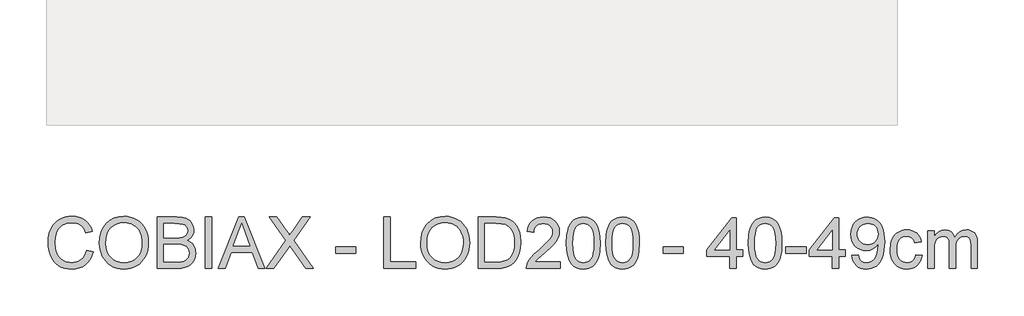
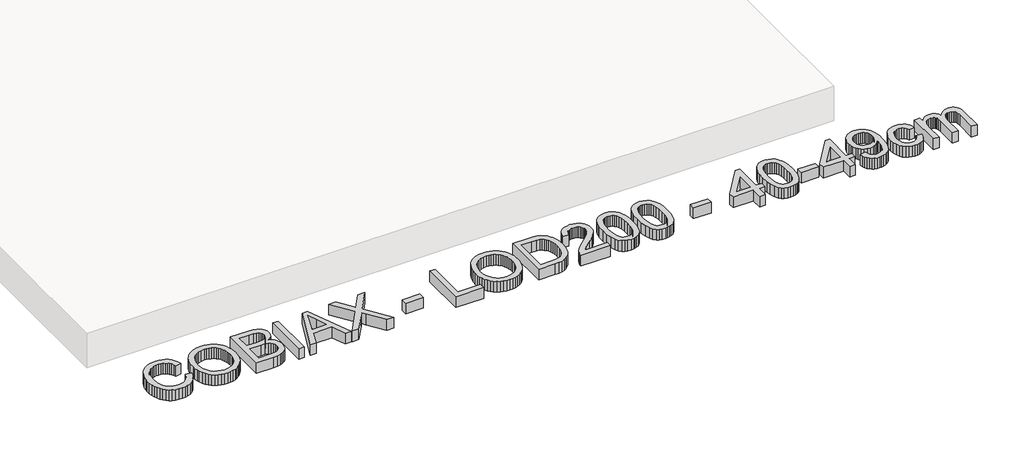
# One storey, part 4 of 6: 1 proxy.
"""IFC4 building model written with IfcOpenShell, lengths in millimetres."""

from ifc_helpers import new_model, si_unit, origin, origin_with_axes, place, context, project, spatial, polyline, outline, extrude, element, save

model = new_model("IFC4")

# Units and contexts
model_context = context("Model", 3, world=origin())
ifc_project = project(units=[si_unit("LENGTHUNIT", "METRE", prefix="MILLI")], contexts=[model_context])

# Site, building, storey
site = spatial("IfcSite", under=ifc_project)
building = spatial("IfcBuilding", under=site)
storey = spatial("IfcBuildingStorey", under=building, Name="COBIAX Slabs", Elevation=0.0)

# Proxy
placement = place(None, origin())
element("IfcBuildingElementProxy", 1, Name="600mm Arial", ObjectType="600mm Arial", at=placement, inside=storey, context=model_context, shape_type="SweptSolid", body=[
    extrude(outline(polyline([(24798.2153953, -6620.9127725), (24873.5576279, -6640.3369419), (24858.64921, -6687.1913125), (24838.7927794, -6728.13198), (24813.9883358, -6763.1589445), (24784.2358795, -6792.2722059), (24750.2067949, -6815.1590645), (24712.5724668, -6831.5068207), (24671.3328952, -6841.3154744), (24626.4880799, -6844.5850256), (24580.5442173, -6842.1110192), (24539.097712, -6834.6889999), (24502.1485641, -6822.3189678), (24469.6967736, -6805.0009229), (24441.2962836, -6782.9923826), (24416.5010371, -6756.5508642), (24395.3110342, -6725.6763677), (24377.7262748, -6690.3688932), (24363.9169044, -6652.155151), (24354.0530684, -6612.5618512), (24348.1347668, -6571.588994), (24346.1619996, -6529.2365793), (24348.3922842, -6483.7939559), (24355.083138, -6441.3495707), (24366.234561, -6401.9034238), (24381.8465531, -6365.4555151), (24401.5696266, -6332.6082514), (24425.0542935, -6303.9640396), (24452.3005538, -6279.5228795), (24483.3084074, -6259.2847713), (24517.0247923, -6243.4152617), (24552.3966461, -6232.0798977), (24589.4239689, -6225.2786793), (24628.1067607, -6223.0116065), (24671.1995379, -6225.9454655), (24710.7146627, -6234.7470422), (24746.6521351, -6249.4163368), (24779.0119551, -6269.9533491), (24807.2606938, -6295.8154534), (24830.8649224, -6326.4600236), (24849.8246407, -6361.8870597), (24864.1398488, -6402.0965618), (24788.7976162, -6420.0492032), (24776.9334219, -6390.420907), (24762.6779946, -6365.1060272), (24746.0313343, -6344.1045638), (24726.993441, -6327.4165168), (24705.4539502, -6314.7015953), (24681.3024972, -6305.6195086), (24654.5390821, -6300.1702565), (24625.1637048, -6298.3538392), (24591.3645465, -6300.3679931), (24560.4532618, -6306.4104549), (24532.4298508, -6316.4812245), (24507.2943135, -6330.5803019), (24485.3639481, -6348.0730908), (24466.9560527, -6368.3249946), (24452.0706275, -6391.3360134), (24440.7076724, -6417.1061472), (24426.3050923, -6472.2516583), (24421.5042322, -6529.0894265), (24427.1880091, -6598.6927), (24434.2927301, -6629.9626696), (24444.2393395, -6658.8781944), (24457.1887858, -6684.8644589), (24473.3020171, -6707.3466473), (24492.5790337, -6726.3247597), (24515.0198354, -6741.7987961), (24539.5345719, -6753.8055448), (24565.0333926, -6762.3817938), (24591.5162978, -6767.5275432), (24618.9832872, -6769.242793), (24651.7385804, -6766.9067423), (24681.8727143, -6759.8985903), (24709.385689, -6748.218337), (24734.2775045, -6731.8659823), (24755.9595496, -6710.9151027), (24773.8432131, -6685.4392745), (24787.928495, -6655.4384978), (24798.2153953, -6620.9127725)])), origin_with_axes(), (0.0, 0.0, 1.0), 150.0),
    extrude(outline(polyline([(24948.8998605, -6541.7445672), (24953.9214497, -6471.0468447), (24968.9862175, -6408.4609203), (24994.0941636, -6353.9867939), (25010.4143286, -6329.7916549), (25029.2452883, -6307.6244654), (25072.3334669, -6270.6063397), (25121.2525753, -6244.1648213), (25176.0026132, -6228.2999102), (25236.5835807, -6223.0116065), (25277.1333737, -6225.49481), (25315.6414215, -6232.9444204), (25352.1077243, -6245.3604378), (25386.532282, -6262.742862), (25417.9494044, -6284.5674614), (25445.3934012, -6310.310004), (25468.8642725, -6339.9704899), (25488.3620182, -6373.548919), (25503.6843033, -6410.2819362), (25514.6287927, -6449.4061864), (25521.1954863, -6490.9216695), (25523.3843842, -6534.8283857), (25521.0805232, -6579.3145159), (25514.1689402, -6621.3910191), (25502.6496352, -6661.0578953), (25486.5226083, -6698.3151443), (25466.1695369, -6732.178682), (25441.9720986, -6761.6644239), (25413.9302936, -6786.7723701), (25382.0441216, -6807.5025205), (25347.5689802, -6823.7261165), (25311.7602665, -6835.3143993), (25274.6179805, -6842.267369), (25236.1421223, -6844.5850256), (25194.8841566, -6842.0236472), (25155.870271, -6834.339512), (25119.1004656, -6821.5326201), (25084.5747403, -6803.6029713), (25053.1944061, -6781.2449431), (25025.8607739, -6755.1529126), (25002.5738436, -6725.3268798), (24983.3336153, -6691.7668448), (24968.2688476, -6655.8201753), (24957.5082992, -6618.8342393), (24951.0519702, -6580.8090365), (24948.8998605, -6541.7445672)]), holes=[polyline([(25024.2420931, -6542.4803312), (25028.0082851, -6592.4295091), (25039.3068608, -6636.7684865), (25058.1378205, -6675.4972636), (25084.5011639, -6708.6158402), (25116.5482842, -6735.140132), (25152.4305743, -6754.0860548), (25192.1480343, -6765.4536084), (25235.700664, -6769.242793), (25279.9982547, -6765.4168202), (25320.1847641, -6753.938902), (25356.2601923, -6734.8090382), (25388.2245392, -6708.027229), (25414.3947446, -6674.2096766), (25433.0877485, -6633.9725834), (25444.3035508, -6587.3159493), (25448.0421516, -6534.2397745), (25446.4418649, -6499.7600345), (25441.6410049, -6467.5427687), (25433.6395715, -6437.5879773), (25422.4375647, -6409.8956601), (25408.1591448, -6384.8291007), (25390.9284718, -6362.7515824), (25370.7455459, -6343.6631054), (25347.6103669, -6327.5636696), (25322.2403048, -6314.7843688), (25295.3527295, -6305.6562968), (25266.9476409, -6300.1794536), (25237.0250391, -6298.3538392), (25194.9853241, -6301.8717107), (25155.9806356, -6312.4253255), (25120.0109735, -6330.0146834), (25087.0763379, -6354.6397844), (25059.5863558, -6387.4870481), (25039.9506543, -6429.7428937), (25028.1692334, -6481.4073214), (25024.2420931, -6542.4803312)])]), origin_with_axes(), (0.0, 0.0, 1.0), 150.0),
    extrude(outline(polyline([(25626.979954, -6835.1672465), (25626.979954, -6232.4293856), (25856.9797774, -6232.4293856), (25920.2370865, -6236.8623637), (25969.6252443, -6250.1612978), (25989.7024042, -6260.2182718), (26007.4803016, -6272.6572818), (26022.9589366, -6287.4783277), (26036.1383091, -6304.6814095), (26054.1829209, -6342.3525258), (26060.1977915, -6381.7894757), (26055.1394141, -6418.0810345), (26039.9642818, -6452.2020895), (26014.56203, -6482.0557135), (25978.8222942, -6505.5449788), (26001.562, -6515.2386694), (26021.5149998, -6527.8386278), (26038.6812934, -6543.3448538), (26053.0608808, -6561.7573477), (26064.423836, -6582.5150893), (26072.5402325, -6605.0570585), (26077.4100704, -6629.3832555), (26079.0333497, -6655.4936801), (26074.6003717, -6697.524198), (26061.3014375, -6736.5012954), (26041.4542039, -6769.6474632), (26017.3763273, -6794.1851923), (25987.8905854, -6811.9538926), (25951.8197558, -6824.7929743), (25907.986616, -6832.5736785), (25855.2139438, -6835.1672465), (25626.979954, -6835.1672465)]), holes=[polyline([(25702.3221866, -6477.2916416), (25839.9100528, -6477.2916416), (25888.0290178, -6475.6729608), (25920.2554806, -6470.8169185), (25948.3800591, -6459.6516999), (25968.5951747, -6442.9314633), (25980.7904629, -6420.9137259), (25984.8555589, -6393.8560051), (25981.0663744, -6367.5892307), (25969.6988207, -6344.7069706), (25951.2679328, -6326.8462997), (25926.2887453, -6315.6442929), (25887.9554414, -6309.7397869), (25829.4622042, -6307.7716182), (25702.3221866, -6307.7716182), (25702.3221866, -6477.2916416)]), polyline([(25702.3221866, -6759.8250139), (25856.8326246, -6759.8250139), (25912.7506879, -6756.8819579), (25938.7047626, -6750.3520525), (25960.0603125, -6740.474421), (25977.4243426, -6726.3293582), (25991.4038584, -6706.9971594), (26000.6193024, -6683.3423471), (26003.6911171, -6656.2294441), (26000.0858735, -6624.7387453), (25989.2701429, -6597.6626304), (25970.3794024, -6576.4910216), (25942.5491295, -6562.7138409), (25903.1305737, -6555.1538659), (25849.4749847, -6552.6338742), (25702.3221866, -6552.6338742), (25702.3221866, -6759.8250139)])]), origin_with_axes(), (0.0, 0.0, 1.0), 150.0),
    extrude(outline(polyline([(26192.0466986, -6835.1672465), (26192.0466986, -6232.4293856), (26267.3889312, -6232.4293856), (26267.3889312, -6835.1672465), (26192.0466986, -6835.1672465)])), origin_with_axes(), (0.0, 0.0, 1.0), 150.0),
    extrude(outline(polyline([(26347.8815118, -6835.1672465), (26588.4763366, -6232.4293856), (26652.6349566, -6232.4293856), (26893.2297814, -6835.1672465), (26813.6201177, -6835.1672465), (26744.6054554, -6646.811665), (26496.358685, -6646.811665), (26427.4911755, -6835.1672465), (26347.8815118, -6835.1672465)]), holes=[polyline([(26524.0234111, -6571.4694324), (26717.0878821, -6571.4694324), (26662.7884996, -6423.2865647), (26620.5556466, -6307.7716182), (26583.0316831, -6410.3371185), (26524.0234111, -6571.4694324)])]), origin_with_axes(), (0.0, 0.0, 1.0), 150.0),
    extrude(outline(polyline([(26907.7979084, -6835.1672465), (27140.1521766, -6506.7222012), (26945.4690247, -6232.4293856), (27035.8208428, -6232.4293856), (27145.4496773, -6386.7926708), (27171.6060872, -6425.8985269), (27182.3850296, -6446.9781652), (27225.6479523, -6385.7626012), (27334.0995644, -6232.4293856), (27425.7757576, -6232.4293856), (27231.0926058, -6507.605118), (27463.4468739, -6835.1672465), (27373.0950559, -6835.1672465), (27218.2903124, -6616.7924942), (27186.0638496, -6571.4694324), (27150.6000252, -6621.2070781), (26999.4741016, -6835.1672465), (26907.7979084, -6835.1672465)])), origin_with_axes(), (0.0, 0.0, 1.0), 150.0),
    extrude(outline(polyline([(27727.1446881, -6656.2294441), (27727.1446881, -6580.8872115), (27962.589165, -6580.8872115), (27962.589165, -6656.2294441), (27727.1446881, -6656.2294441)])), origin_with_axes(), (0.0, 0.0, 1.0), 150.0),
    extrude(outline(polyline([(28292.2114327, -6835.1672465), (28292.2114327, -6232.4293856), (28367.5536653, -6232.4293856), (28367.5536653, -6759.8250139), (28668.9225957, -6759.8250139), (28668.9225957, -6835.1672465), (28292.2114327, -6835.1672465)])), origin_with_axes(), (0.0, 0.0, 1.0), 150.0),
    extrude(outline(polyline([(28725.4292702, -6541.7445672), (28730.4508594, -6471.0468447), (28745.5156271, -6408.4609203), (28770.6235733, -6353.9867939), (28786.9437383, -6329.7916549), (28805.7746979, -6307.6244654), (28848.8628766, -6270.6063397), (28897.7819849, -6244.1648213), (28952.5320229, -6228.2999102), (29013.1129904, -6223.0116065), (29053.6627833, -6225.49481), (29092.1708312, -6232.9444204), (29128.637134, -6245.3604378), (29163.0616917, -6262.742862), (29194.4788141, -6284.5674614), (29221.9228109, -6310.310004), (29245.3936822, -6339.9704899), (29264.8914279, -6373.548919), (29280.213713, -6410.2819362), (29291.1582024, -6449.4061864), (29297.724896, -6490.9216695), (29299.9137939, -6534.8283857), (29297.6099329, -6579.3145159), (29290.6983499, -6621.3910191), (29279.1790449, -6661.0578953), (29263.052018, -6698.3151443), (29242.6989466, -6732.178682), (29218.5015083, -6761.6644239), (29190.4597033, -6786.7723701), (29158.5735313, -6807.5025205), (29124.0983898, -6823.7261165), (29088.2896761, -6835.3143993), (29051.1473902, -6842.267369), (29012.671532, -6844.5850256), (28971.4135663, -6842.0236472), (28932.3996807, -6834.339512), (28895.6298753, -6821.5326201), (28861.10415, -6803.6029713), (28829.7238158, -6781.2449431), (28802.3901836, -6755.1529126), (28779.1032533, -6725.3268798), (28759.8630249, -6691.7668448), (28744.7982572, -6655.8201753), (28734.0377089, -6618.8342393), (28727.5813799, -6580.8090365), (28725.4292702, -6541.7445672)]), holes=[polyline([(28800.7715028, -6542.4803312), (28804.5376947, -6592.4295091), (28815.8362705, -6636.7684865), (28834.6672301, -6675.4972636), (28861.0305736, -6708.6158402), (28893.0776939, -6735.140132), (28928.959984, -6754.0860548), (28968.6774439, -6765.4536084), (29012.2300736, -6769.242793), (29056.5276644, -6765.4168202), (29096.7141738, -6753.938902), (29132.789602, -6734.8090382), (29164.7539488, -6708.027229), (29190.9241543, -6674.2096766), (29209.6171582, -6633.9725834), (29220.8329605, -6587.3159493), (29224.5715613, -6534.2397745), (29222.9712746, -6499.7600345), (29218.1704145, -6467.5427687), (29210.1689811, -6437.5879773), (29198.9669744, -6409.8956601), (29184.6885545, -6384.8291007), (29167.4578815, -6362.7515824), (29147.2749555, -6343.6631054), (29124.1397766, -6327.5636696), (29098.7697145, -6314.7843688), (29071.8821392, -6305.6562968), (29043.4770506, -6300.1794536), (29013.5544488, -6298.3538392), (28971.5147338, -6301.8717107), (28932.5100453, -6312.4253255), (28896.5403832, -6330.0146834), (28863.6057476, -6354.6397844), (28836.1157655, -6387.4870481), (28816.480064, -6429.7428937), (28804.6986431, -6481.4073214), (28800.7715028, -6542.4803312)])]), origin_with_axes(), (0.0, 0.0, 1.0), 150.0),
    extrude(outline(polyline([(29403.5093637, -6835.1672465), (29403.5093637, -6232.4293856), (29611.4362674, -6232.4293856), (29673.5715364, -6234.5998894), (29719.0049628, -6241.1114007), (29767.0503513, -6257.8500315), (29807.5909472, -6284.2271705), (29829.9305814, -6305.7850555), (29849.2719773, -6330.1388435), (29865.6151349, -6357.2885348), (29878.9600543, -6387.2341292), (29889.3251295, -6419.6997153), (29896.7287546, -6454.4093815), (29902.6516548, -6530.5609545), (29898.641741, -6595.2530034), (29886.6119998, -6652.1827421), (29868.2914764, -6700.651195), (29845.4092163, -6739.9593862), (29819.0688655, -6770.9902325), (29790.3740698, -6794.6266507), (29757.4302372, -6812.1562277), (29718.3427752, -6824.8665507), (29673.0381075, -6832.5920726), (29621.4426577, -6835.1672465), (29403.5093637, -6835.1672465)]), holes=[polyline([(29478.8515963, -6759.8250139), (29612.1720314, -6759.8250139), (29667.3175425, -6757.1026871), (29709.1457253, -6748.9357069), (29740.7100005, -6735.8023196), (29765.0637886, -6718.1807721), (29791.2385925, -6685.5680332), (29810.9018852, -6643.3535742), (29823.2075379, -6591.3534542), (29827.3094222, -6529.3837321), (29825.2998668, -6485.6425629), (29819.2712006, -6447.2724708), (29809.2234236, -6414.2734558), (29795.1565358, -6386.645518), (29778.2109714, -6363.7632579), (29759.5271645, -6345.0012761), (29739.1051153, -6330.3595727), (29716.9448236, -6319.8381477), (29673.6083246, -6310.7882506), (29610.1118922, -6307.7716182), (29478.8515963, -6307.7716182), (29478.8515963, -6759.8250139)])]), origin_with_axes(), (0.0, 0.0, 1.0), 150.0),
    extrude(outline(polyline([(30364.1228295, -6759.8250139), (30364.1228295, -6835.1672465), (29968.5761083, -6835.1672465), (29970.2315773, -6808.6429547), (29976.6695122, -6783.2223088), (29995.247553, -6742.6265306), (30022.4340324, -6703.2447631), (30061.7606177, -6662.0235855), (30116.758976, -6615.9095774), (30198.0608969, -6543.6943417), (30246.8420495, -6490.3882406), (30261.0698856, -6468.6096265), (30271.2326257, -6447.125318), (30277.3302698, -6425.9353151), (30279.3628178, -6405.0396178), (30277.4452329, -6385.3809236), (30271.6924782, -6367.3133192), (30262.1045537, -6350.8368043), (30248.6814594, -6335.9513791), (30232.1681564, -6323.6227337), (30213.3096056, -6314.8165584), (30192.1058071, -6309.5328533), (30168.5567609, -6307.7716182), (30143.7477188, -6309.4914666), (30121.559836, -6314.6510115), (30101.9931124, -6323.2502532), (30085.047548, -6335.2891915), (30071.3393451, -6350.3631562), (30061.4847062, -6368.0674772), (30055.4836311, -6388.4021545), (30053.33612, -6411.3671881), (29977.9938874, -6401.949409), (29984.473209, -6363.0550851), (29996.2592284, -6329.0719858), (30013.3519456, -6300.0001111), (30035.7513606, -6275.8394611), (30062.9424386, -6256.8475531), (30094.4101448, -6243.2819045), (30130.1544791, -6235.1425153), (30170.1754417, -6232.4293856), (30210.5550892, -6235.446018), (30246.4925616, -6244.4959151), (30277.9878589, -6259.5790769), (30305.0409811, -6280.6955034), (30326.7690114, -6306.2816962), (30342.2890331, -6334.7741567), (30351.6010461, -6366.172885), (30354.7050504, -6400.477881), (30351.3573243, -6436.5119224), (30341.3141458, -6471.9205645), (30323.4902631, -6507.9362118), (30296.8004244, -6545.7912691), (30254.2548717, -6590.9855722), (30188.863847, -6649.018957), (30102.190849, -6721.49171), (30068.1985526, -6759.8250139), (30364.1228295, -6759.8250139)])), origin_with_axes(), (0.0, 0.0, 1.0), 150.0),
    extrude(outline(polyline([(30439.4650621, -6538.6543584), (30445.0016862, -6442.1773052), (30451.9224662, -6401.2642288), (30461.6115582, -6365.2347859), (30474.0275756, -6333.7946709), (30489.1291315, -6306.6495782), (30506.9162259, -6283.7995077), (30527.388859, -6265.2444596), (30550.6160084, -6250.8878647), (30576.6666522, -6240.6331541), (30605.5407903, -6234.4803277), (30637.2384227, -6232.4293856), (30683.6651305, -6237.285428), (30725.235796, -6251.853555), (30760.0006445, -6275.5635496), (30786.0099016, -6307.8451946), (30805.6548001, -6348.4225787), (30821.3265731, -6397.0197903), (30831.5904808, -6458.731995), (30835.0117833, -6538.6543584), (30829.5303416, -6634.5795887), (30822.6785395, -6675.3547093), (30813.0860164, -6711.3381669), (30800.7665681, -6742.7920775), (30785.7339901, -6769.978557), (30767.9882823, -6792.8976053), (30747.5294449, -6811.5492224), (30724.2747043, -6826.0023863), (30698.141287, -6836.3260748), (30669.1291932, -6842.5202879), (30637.2384227, -6844.5850256), (30595.7413337, -6840.9981761), (30558.9531342, -6830.2376278), (30526.8738242, -6812.3033805), (30499.5034037, -6787.1954344), (30473.2366293, -6741.8079932), (30454.4746475, -6685.2553335), (30443.2174585, -6617.5374552), (30439.4650621, -6538.6543584)]), holes=[polyline([(30514.8072947, -6538.5072056), (30517.0145867, -6604.0039963), (30523.6364626, -6657.0203904), (30534.6729225, -6697.5563877), (30550.1239663, -6725.6119884), (30568.8123716, -6744.7004654), (30589.5609162, -6758.3350918), (30612.3695999, -6766.5158677), (30637.2384227, -6769.242793), (30662.1072456, -6766.5066706), (30684.9159293, -6758.2983036), (30705.6644738, -6744.6176919), (30724.3528792, -6725.4648356), (30739.803923, -6697.3632497), (30750.8403828, -6656.8364494), (30757.4622588, -6603.8844347), (30759.6695507, -6538.5072056), (30757.5358352, -6474.7440588), (30751.1346884, -6422.6611653), (30740.4661106, -6382.2585252), (30725.5301016, -6353.5361384), (30707.1543959, -6333.5141609), (30686.1667281, -6319.2127483), (30662.5670981, -6310.6319008), (30636.3555059, -6307.7716182), (30611.6154418, -6310.2916099), (30589.1930342, -6317.8515849), (30569.0882831, -6330.4515432), (30551.3011887, -6348.0914849), (30535.3351101, -6379.3614545), (30523.9307682, -6421.5207311), (30517.0881631, -6474.5693149), (30514.8072947, -6538.5072056)])]), origin_with_axes(), (0.0, 0.0, 1.0), 150.0),
    extrude(outline(polyline([(30900.9362369, -6538.6543584), (30906.4728609, -6442.1773052), (30913.3936409, -6401.2642288), (30923.082733, -6365.2347859), (30935.4987503, -6333.7946709), (30950.6003062, -6306.6495782), (30968.3874007, -6283.7995077), (30988.8600337, -6265.2444596), (31012.0871832, -6250.8878647), (31038.137827, -6240.6331541), (31067.0119651, -6234.4803277), (31098.7095975, -6232.4293856), (31145.1363053, -6237.285428), (31186.7069707, -6251.853555), (31221.4718193, -6275.5635496), (31247.4810763, -6307.8451946), (31267.1259749, -6348.4225787), (31282.7977479, -6397.0197903), (31293.0616555, -6458.731995), (31296.4829581, -6538.6543584), (31291.0015164, -6634.5795887), (31284.1497142, -6675.3547093), (31274.5571912, -6711.3381669), (31262.2377429, -6742.7920775), (31247.2051648, -6769.978557), (31229.4594571, -6792.8976053), (31209.0006196, -6811.5492224), (31185.745879, -6826.0023863), (31159.6124618, -6836.3260748), (31130.6003679, -6842.5202879), (31098.7095975, -6844.5850256), (31057.2125084, -6840.9981761), (31020.4243089, -6830.2376278), (30988.3449989, -6812.3033805), (30960.9745785, -6787.1954344), (30934.707804, -6741.8079932), (30915.9458223, -6685.2553335), (30904.6886332, -6617.5374552), (30900.9362369, -6538.6543584)]), holes=[polyline([(30976.2784695, -6538.5072056), (30978.4857615, -6604.0039963), (30985.1076374, -6657.0203904), (30996.1440972, -6697.5563877), (31011.595141, -6725.6119884), (31030.2835464, -6744.7004654), (31051.0320909, -6758.3350918), (31073.8407746, -6766.5158677), (31098.7095975, -6769.242793), (31123.5784204, -6766.5066706), (31146.3871041, -6758.2983036), (31167.1356486, -6744.6176919), (31185.8240539, -6725.4648356), (31201.2750977, -6697.3632497), (31212.3115576, -6656.8364494), (31218.9334335, -6603.8844347), (31221.1407255, -6538.5072056), (31219.0070099, -6474.7440588), (31212.6058632, -6422.6611653), (31201.9372853, -6382.2585252), (31187.0012763, -6353.5361384), (31168.6255707, -6333.5141609), (31147.6379028, -6319.2127483), (31124.0382729, -6310.6319008), (31097.8266807, -6307.7716182), (31073.0866165, -6310.2916099), (31050.6642089, -6317.8515849), (31030.5594579, -6330.4515432), (31012.7723634, -6348.0914849), (30996.8062848, -6379.3614545), (30985.401943, -6421.5207311), (30978.5593379, -6474.5693149), (30976.2784695, -6538.5072056)])]), origin_with_axes(), (0.0, 0.0, 1.0), 150.0),
    extrude(outline(polyline([(31579.0163304, -6656.2294441), (31579.0163304, -6580.8872115), (31814.4608073, -6580.8872115), (31814.4608073, -6656.2294441), (31579.0163304, -6656.2294441)])), origin_with_axes(), (0.0, 0.0, 1.0), 150.0),
    extrude(outline(polyline([(32360.6919937, -6835.1672465), (32360.6919937, -6693.9005604), (32087.5764005, -6693.9005604), (32087.5764005, -6618.5583278), (32379.5275519, -6241.8471647), (32436.0342264, -6241.8471647), (32436.0342264, -6618.5583278), (32511.376459, -6618.5583278), (32511.376459, -6693.9005604), (32436.0342264, -6693.9005604), (32436.0342264, -6835.1672465), (32360.6919937, -6835.1672465)]), holes=[polyline([(32360.6919937, -6618.5583278), (32360.6919937, -6385.7626012), (32180.2826633, -6618.5583278), (32360.6919937, -6618.5583278)])]), origin_with_axes(), (0.0, 0.0, 1.0), 150.0),
    extrude(outline(polyline([(32577.3009125, -6538.6543584), (32582.8375365, -6442.1773052), (32589.7583166, -6401.2642288), (32599.4474086, -6365.2347859), (32611.8634259, -6333.7946709), (32626.9649818, -6306.6495782), (32644.7520763, -6283.7995077), (32665.2247093, -6265.2444596), (32688.4518588, -6250.8878647), (32714.5025026, -6240.6331541), (32743.3766407, -6234.4803277), (32775.0742731, -6232.4293856), (32821.5009809, -6237.285428), (32863.0716464, -6251.853555), (32897.8364949, -6275.5635496), (32923.845752, -6307.8451946), (32943.4906505, -6348.4225787), (32959.1624235, -6397.0197903), (32969.4263312, -6458.731995), (32972.8476337, -6538.6543584), (32967.366192, -6634.5795887), (32960.5143898, -6675.3547093), (32950.9218668, -6711.3381669), (32938.6024185, -6742.7920775), (32923.5698405, -6769.978557), (32905.8241327, -6792.8976053), (32885.3652953, -6811.5492224), (32862.1105546, -6826.0023863), (32835.9771374, -6836.3260748), (32806.9650436, -6842.5202879), (32775.0742731, -6844.5850256), (32733.5771841, -6840.9981761), (32696.7889845, -6830.2376278), (32664.7096746, -6812.3033805), (32637.3392541, -6787.1954344), (32611.0724797, -6741.8079932), (32592.3104979, -6685.2553335), (32581.0533089, -6617.5374552), (32577.3009125, -6538.6543584)]), holes=[polyline([(32652.6431451, -6538.5072056), (32654.8504371, -6604.0039963), (32661.472313, -6657.0203904), (32672.5087729, -6697.5563877), (32687.9598166, -6725.6119884), (32706.648222, -6744.7004654), (32727.3967665, -6758.3350918), (32750.2054502, -6766.5158677), (32775.0742731, -6769.242793), (32799.943096, -6766.5066706), (32822.7517797, -6758.2983036), (32843.5003242, -6744.6176919), (32862.1887296, -6725.4648356), (32877.6397734, -6697.3632497), (32888.6762332, -6656.8364494), (32895.2981091, -6603.8844347), (32897.5054011, -6538.5072056), (32895.3716855, -6474.7440588), (32888.9705388, -6422.6611653), (32878.301961, -6382.2585252), (32863.3659519, -6353.5361384), (32844.9902463, -6333.5141609), (32824.0025785, -6319.2127483), (32800.4029485, -6310.6319008), (32774.1913563, -6307.7716182), (32749.4512921, -6310.2916099), (32727.0288845, -6317.8515849), (32706.9241335, -6330.4515432), (32689.137039, -6348.0914849), (32673.1709604, -6379.3614545), (32661.7666186, -6421.5207311), (32654.9240135, -6474.5693149), (32652.6431451, -6538.5072056)])]), origin_with_axes(), (0.0, 0.0, 1.0), 150.0),
    extrude(outline(polyline([(33019.9365291, -6656.2294441), (33019.9365291, -6580.8872115), (33255.381006, -6580.8872115), (33255.381006, -6656.2294441), (33019.9365291, -6656.2294441)])), origin_with_axes(), (0.0, 0.0, 1.0), 150.0),
    extrude(outline(polyline([(33566.1677155, -6835.1672465), (33566.1677155, -6693.9005604), (33293.0521223, -6693.9005604), (33293.0521223, -6618.5583278), (33585.0032737, -6241.8471647), (33641.5099481, -6241.8471647), (33641.5099481, -6618.5583278), (33716.8521808, -6618.5583278), (33716.8521808, -6693.9005604), (33641.5099481, -6693.9005604), (33641.5099481, -6835.1672465), (33566.1677155, -6835.1672465)]), holes=[polyline([(33566.1677155, -6618.5583278), (33566.1677155, -6385.7626012), (33385.7583851, -6618.5583278), (33566.1677155, -6618.5583278)])]), origin_with_axes(), (0.0, 0.0, 1.0), 150.0),
    extrude(outline(polyline([(33792.1944134, -6684.4827813), (33867.536646, -6675.0650022), (33880.4125158, -6717.8312842), (33889.8854772, -6734.0962669), (33901.3817895, -6746.9491441), (33914.7726942, -6756.7026155), (33929.9294324, -6763.6693808), (33965.5404095, -6769.242793), (33997.4909608, -6765.6559435), (34026.5352443, -6754.8953952), (34050.6683032, -6738.1383703), (34067.8851806, -6716.5620913), (34080.9265973, -6688.1983894), (34092.5332742, -6651.0790961), (34100.7002545, -6608.4783611), (34103.4225813, -6563.6703341), (34102.9811229, -6548.9550543), (34076.8798953, -6580.8136351), (34042.7220521, -6606.0503399), (34002.9724025, -6622.4946651), (33960.095756, -6627.9761068), (33924.3054364, -6624.6283807), (33891.3937934, -6614.5852022), (33861.360827, -6597.8465714), (33834.2065372, -6574.4124883), (33811.7059547, -6545.5061606), (33795.63411, -6512.3507958), (33785.9910032, -6474.9463939), (33782.7766343, -6433.292955), (33786.1473531, -6390.2507616), (33796.2595094, -6351.6231521), (33813.1131033, -6317.4101265), (33836.7081348, -6287.6116849), (33865.3799378, -6263.469429), (33897.4638463, -6246.2249604), (33932.9598603, -6235.8782793), (33971.8679798, -6232.4293856), (34000.5949651, -6234.3975543), (34028.0619546, -6240.3020603), (34054.2689482, -6250.1429037), (34079.215946, -6263.9200844), (34102.070615, -6281.3392969), (34122.000622, -6302.1062355), (34139.0059673, -6326.2209003), (34153.0866506, -6353.6832912), (34164.127709, -6386.0753009), (34172.0141793, -6424.9788219), (34176.7460615, -6470.3938542), (34178.3233555, -6522.3203978), (34176.75066, -6576.8543051), (34172.0325734, -6625.5296916), (34164.1690957, -6668.3465573), (34153.160227, -6705.3049022), (34139.047354, -6737.3060373), (34121.8718633, -6765.2512733), (34101.6337551, -6789.1406104), (34078.3330292, -6808.9740485), (34052.4387353, -6824.553851), (34024.4199228, -6835.6822813), (33994.2765918, -6842.3593395), (33962.0087423, -6844.5850256), (33928.1727958, -6841.9592679), (33897.592605, -6834.0819946), (33870.2681698, -6820.9532059), (33846.1994903, -6802.5729018), (33825.9935717, -6779.4377228), (33810.2574193, -6752.0443097), (33798.9910332, -6720.3926626), (33792.1944134, -6684.4827813)]), holes=[polyline([(34102.9811229, -6431.5271214), (34100.9485749, -6404.524583), (34094.8509308, -6380.4651005), (34084.6881907, -6359.348674), (34070.4603545, -6341.1753034), (34052.8663981, -6326.5611911), (34032.6052972, -6316.1225395), (34009.6770519, -6309.8593486), (33984.0816621, -6307.7716182), (33957.6677348, -6310.0202969), (33933.7554051, -6316.766333), (33912.344673, -6328.0097265), (33893.4355384, -6343.7504774), (33877.9844946, -6363.0688806), (33866.9480348, -6385.0452313), (33860.3261589, -6409.6795294), (33858.1188669, -6436.9717749), (33860.2065972, -6461.4497232), (33866.4697882, -6483.5272414), (33876.9084398, -6503.2043297), (33891.5225521, -6520.4809878), (33909.7051197, -6534.5478756), (33930.8491374, -6544.5956526), (33954.9546051, -6550.6243188), (33982.0215229, -6552.6338742), (34007.2628263, -6550.6243188), (34030.158882, -6544.5956526), (34050.7096899, -6534.5478756), (34068.9152501, -6520.4809878), (34083.8190695, -6502.8640388), (34094.4646547, -6482.1660781), (34100.8520059, -6458.3871056), (34102.9811229, -6431.5271214)])]), origin_with_axes(), (0.0, 0.0, 1.0), 150.0),
    extrude(outline(polyline([(34545.6167395, -6675.0650022), (34620.9589721, -6684.4827813), (34612.7644007, -6720.0339776), (34599.9529102, -6751.4924867), (34582.5245007, -6778.8583086), (34560.4791721, -6802.1314434), (34534.7458265, -6820.7048856), (34506.253366, -6833.97163), (34475.0017905, -6841.9316767), (34440.9911001, -6844.5850256), (34398.7352544, -6840.883213), (34360.8480074, -6829.7777753), (34327.3293591, -6811.2687124), (34298.1793095, -6785.3560244), (34274.5842781, -6752.5271548), (34257.7306842, -6713.2695474), (34247.6185278, -6667.5832021), (34244.247809, -6615.468119), (34250.0051623, -6548.4216254), (34257.2018538, -6518.2507033), (34267.2772219, -6490.3146642), (34280.3002446, -6465.1745284), (34296.3398996, -6443.3913158), (34315.3961869, -6424.9650263), (34337.4691066, -6409.8956601), (34361.5607788, -6398.1786186), (34386.6733235, -6389.8093032), (34412.8067407, -6384.7877139), (34439.9610305, -6383.1138508), (34473.3877083, -6385.4131133), (34503.6230097, -6392.3109007), (34530.6669349, -6403.8072131), (34554.5194838, -6419.9020504), (34574.7759861, -6440.2275306), (34591.0317718, -6464.4157718), (34603.2868408, -6492.4667739), (34611.541193, -6524.380537), (34536.1989604, -6533.7983161), (34522.5321443, -6500.9280598), (34501.2501709, -6477.365218), (34473.5302625, -6463.1833671), (34440.5496417, -6458.4560835), (34414.9496533, -6460.7829371), (34391.8604596, -6467.7634979), (34371.2820605, -6479.397766), (34353.214456, -6495.6857414), (34338.5037747, -6517.004503), (34327.9961452, -6543.7311299), (34321.6915676, -6575.8656222), (34319.5900417, -6613.4079798), (34321.6455823, -6651.515956), (34327.8122042, -6684.0229288), (34338.0899075, -6710.9288982), (34352.478692, -6732.2338643), (34370.1876116, -6748.4252706), (34390.4257198, -6759.9905608), (34413.1930168, -6766.9297349), (34438.4895025, -6769.242793), (34477.5033881, -6763.4670457), (34494.3753761, -6756.2473615), (34509.4907276, -6746.1398037), (34522.4263782, -6733.0340076), (34532.7592638, -6716.8196087), (34540.4893842, -6697.4966069), (34545.6167395, -6675.0650022)])), origin_with_axes(), (0.0, 0.0, 1.0), 150.0),
    extrude(outline(polyline([(34686.8834256, -6835.1672465), (34686.8834256, -6392.5316299), (34762.2256583, -6392.5316299), (34762.2256583, -6465.372265), (34784.8871892, -6431.9133975), (34814.0234432, -6405.7018054), (34848.6411389, -6388.7608395), (34887.746995, -6383.1138508), (34929.6487543, -6388.8712041), (34947.481834, -6396.0678956), (34963.2363804, -6406.1432637), (34988.3259325, -6433.7895957), (35004.7334695, -6470.6697657), (35032.1958604, -6432.364053), (35063.5210123, -6405.0028296), (35098.7089251, -6388.5860955), (35137.7595989, -6383.1138508), (35167.921324, -6385.3901207), (35194.3950321, -6392.2189302), (35217.1807232, -6403.6002795), (35236.2783972, -6419.5341684), (35251.3753546, -6440.204538), (35262.1588956, -6465.7953293), (35268.6290202, -6496.3065422), (35270.7857284, -6531.7381769), (35270.7857284, -6835.1672465), (35195.4434958, -6835.1672465), (35195.4434958, -6564.1117925), (35193.6960563, -6526.5326467), (35188.4537379, -6501.2039713), (35178.6312886, -6483.8583352), (35163.1434566, -6470.2283073), (35143.2226466, -6461.3991394), (35120.1012632, -6458.4560835), (35098.7503119, -6460.3414787), (35079.2847558, -6465.9976644), (35061.704595, -6475.4246405), (35046.0098293, -6488.6224071), (35033.1017698, -6505.9772402), (35023.8817273, -6527.875416), (35018.3497018, -6554.3169344), (35016.5056933, -6585.3017954), (35016.5056933, -6835.1672465), (34941.1634607, -6835.1672465), (34941.1634607, -6555.724083), (34936.8040591, -6513.1233479), (34931.354807, -6496.4031113), (34923.7258541, -6482.7362951), (34913.6136978, -6472.1137025), (34900.7148353, -6464.5261364), (34885.0292668, -6459.9735967), (34866.5569921, -6458.4560835), (34837.5311027, -6462.5027854), (34810.7860816, -6474.6428912), (34788.7131619, -6494.5820954), (34773.7035765, -6522.0260922), (34765.0951378, -6560.1018787), (34762.2256583, -6611.9364518), (34762.2256583, -6835.1672465), (34686.8834256, -6835.1672465)])), origin_with_axes(), (0.0, 0.0, 1.0), 150.0),
])

save(model, "model.ifc")
